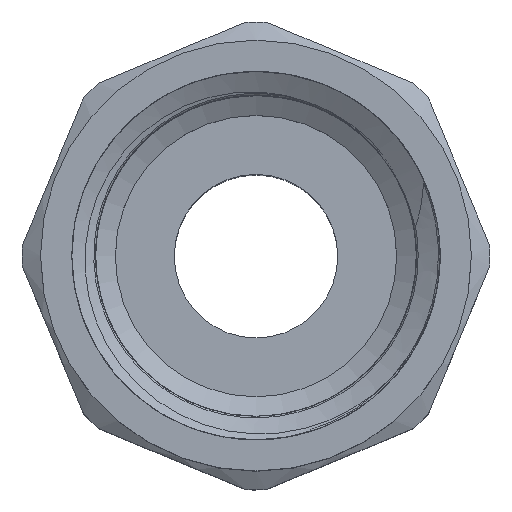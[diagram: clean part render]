
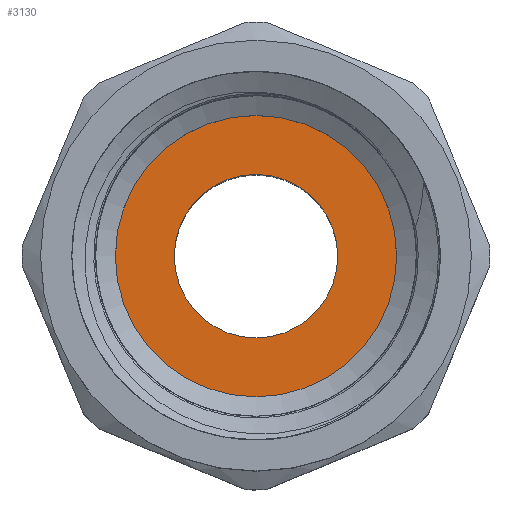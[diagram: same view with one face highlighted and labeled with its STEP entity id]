
A CAD part, top view. The second image highlights one B-rep face of the part: STEP entity #3130.
In plain terms, the highlighted planar face has unit normal (0, 0, 1).
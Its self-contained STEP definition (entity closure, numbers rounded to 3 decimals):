
#240=FACE_BOUND('',#692,.T.);
#346=PLANE('',#3404);
#500=FACE_OUTER_BOUND('',#691,.T.);
#691=EDGE_LOOP('',(#2859));
#692=EDGE_LOOP('',(#2860,#2861));
#1170=CIRCLE('',#3327,8.);
#1219=CIRCLE('',#3402,4.65);
#1220=CIRCLE('',#3403,4.65);
#1464=VERTEX_POINT('',#6315);
#1513=VERTEX_POINT('',#6455);
#1514=VERTEX_POINT('',#6457);
#1902=EDGE_CURVE('',#1464,#1464,#1170,.T.);
#1968=EDGE_CURVE('',#1514,#1513,#1219,.T.);
#1969=EDGE_CURVE('',#1513,#1514,#1220,.T.);
#2859=ORIENTED_EDGE('',*,*,#1902,.F.);
#2860=ORIENTED_EDGE('',*,*,#1968,.T.);
#2861=ORIENTED_EDGE('',*,*,#1969,.T.);
#3130=ADVANCED_FACE('',(#500,#240),#346,.T.);
#3327=AXIS2_PLACEMENT_3D('',#6316,#3890,#3891);
#3402=AXIS2_PLACEMENT_3D('',#6458,#4057,#4058);
#3403=AXIS2_PLACEMENT_3D('',#6459,#4059,#4060);
#3404=AXIS2_PLACEMENT_3D('',#6460,#4061,#4062);
#3890=DIRECTION('center_axis',(0.,0.,-1.));
#3891=DIRECTION('ref_axis',(1.,0.,0.));
#4057=DIRECTION('center_axis',(0.,0.,-1.));
#4058=DIRECTION('ref_axis',(1.,0.,0.));
#4059=DIRECTION('center_axis',(0.,0.,-1.));
#4060=DIRECTION('ref_axis',(1.,0.,0.));
#4061=DIRECTION('center_axis',(0.,0.,1.));
#4062=DIRECTION('ref_axis',(1.,0.,0.));
#6315=CARTESIAN_POINT('',(0.,8.,26.192));
#6316=CARTESIAN_POINT('Origin',(0.,0.,26.192));
#6455=CARTESIAN_POINT('',(0.,-4.65,26.192));
#6457=CARTESIAN_POINT('',(0.,4.65,26.192));
#6458=CARTESIAN_POINT('Origin',(0.,0.,26.192));
#6459=CARTESIAN_POINT('Origin',(0.,0.,26.192));
#6460=CARTESIAN_POINT('Origin',(0.,8.,26.192));
